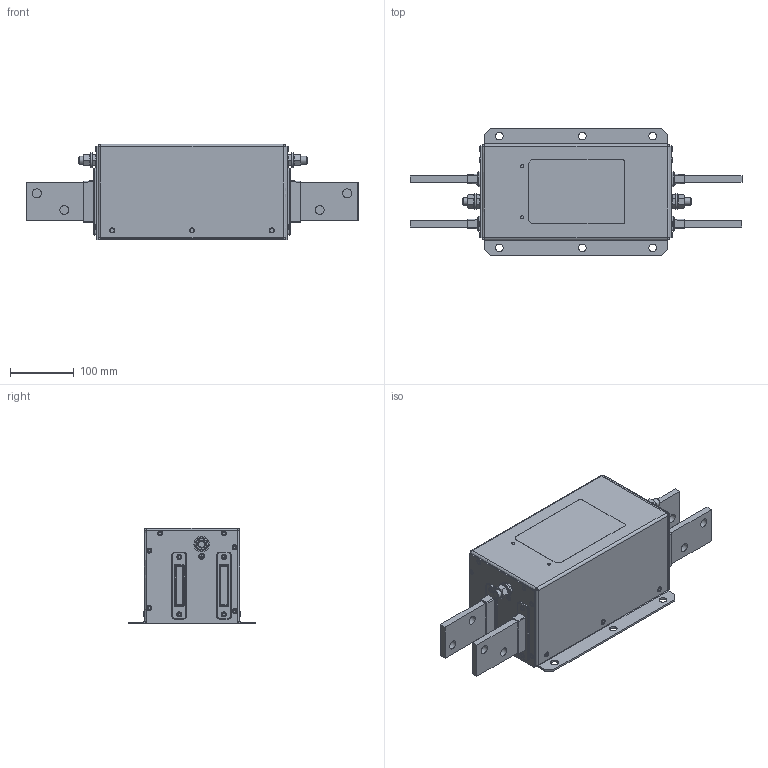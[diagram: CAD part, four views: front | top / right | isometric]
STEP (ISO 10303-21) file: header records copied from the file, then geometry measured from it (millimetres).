
FILE_DESCRIPTION((''),'2;1');
FILE_NAME('L:\INVENTOR_Projektedaten\HousingDesign\FN2200-1500-99.stp','2012-09-12T08:27:23',('Samuel.Meier'),(''),'Autodesk Inventor 2010','Autodesk Inventor 2010','');
FILE_SCHEMA(('AUTOMOTIVE_DESIGN { 1 2 10303 214 0 1 1 1 }'));
Length unit declared in the file: millimetre
Products named in the file (1): Bauteil1
Bounding box: 520 x 200 x 150.3 mm (x, y, z)
Volume: 1350222.3 mm3; surface area: 694057.5 mm2
Topology: 18 solids, 18 shells, 1302 faces, 3297 edges, 2141 vertices
Faces by surface type: plane 512, cylinder 512, bspline 214, torus 42, cone 22
Full cylindrical faces by diameter (mm): 4 x26, 4.1 x3, 4.3 x9, 6 x4, 8 x27, 9 x1, 10 x8, 12 x9, 13 x3, 14 x4, 16.63 x2, 24 x2
Entity records: 42094 total; most frequent: CARTESIAN_POINT 9811, DIRECTION 6424, ORIENTED_EDGE 6152, EDGE_CURVE 3076, AXIS2_PLACEMENT_3D 2375, VERTEX_POINT 2116, EDGE_LOOP 1740, VECTOR 1674
